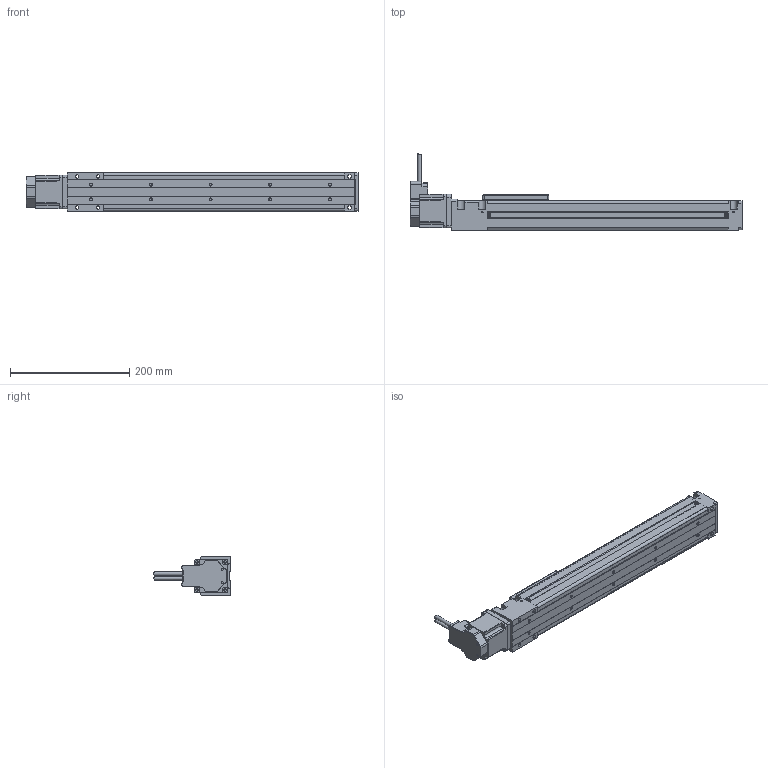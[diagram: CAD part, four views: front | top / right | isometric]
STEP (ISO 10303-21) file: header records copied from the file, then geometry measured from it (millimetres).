
FILE_DESCRIPTION(/* description */ ('Alibre Inc.'),/* implementation_level */ '2;1');
FILE_NAME(/* name */ 'export0',/* time_stamp */ '2010-04-01T10:42:55-04:00',/* author */ (''),/* organization */ (''),/* preprocessor_version */ 'ST-DEVELOPER v10',/* originating_system */ 'Alibre',/* authorisation */ '');
FILE_SCHEMA (('CONFIG_CONTROL_DESIGN'));
Length unit declared in the file: millimetre
Products named in the file (6): 1; 2; ID_1; ID_2; ID_3
Bounding box: 556 x 127.68 x 64 mm (x, y, z)
Volume: 695697.5 mm3; surface area: 292999 mm2
Topology: 4 solids, 4 shells, 822 faces, 2160 edges, 1354 vertices
Faces by surface type: plane 492, cylinder 212, cone 86, torus 28, sphere 4
Full cylindrical faces by diameter (mm): 3.5 x2, 4.5 x4, 5.5 x1, 6.5 x1, 8 x1, 38.13 x1, 38.15 x1
Entity records: 25184 total; most frequent: CARTESIAN_POINT 4580, ORIENTED_EDGE 4252, DIRECTION 3784, EDGE_CURVE 2126, VECTOR 1534, LINE 1534, AXIS2_PLACEMENT_3D 1381, VERTEX_POINT 1347
